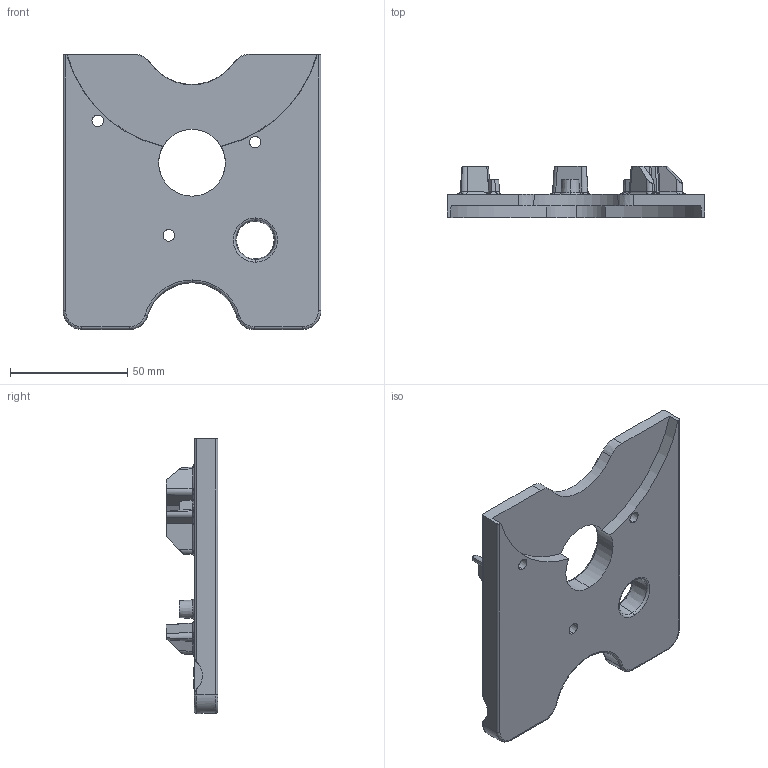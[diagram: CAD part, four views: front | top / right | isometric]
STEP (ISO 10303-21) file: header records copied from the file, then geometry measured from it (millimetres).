
FILE_DESCRIPTION (( 'STEP AP214' ), '1' );
FILE_NAME ('10034V000_Motorflansch_Index_2.STEP', '2014-04-25T08:47:45', ( 'Admin' ), ( '' ), 'SwSTEP 2.0', 'SolidWorks 2013', '' );
FILE_SCHEMA (( 'AUTOMOTIVE_DESIGN' ));
Length unit declared in the file: millimetre
Products named in the file (1): 10034V000_Motorflansch_Index_2
Bounding box: 110 x 22 x 117.5 mm (x, y, z)
Volume: 99343.4 mm3; surface area: 30286.3 mm2
Topology: 1 solids, 1 shells, 299 faces, 767 edges, 457 vertices
Faces by surface type: cylinder 104, bspline 85, plane 74, torus 16, cone 15, sphere 5
Entity records: 13142 total; most frequent: CARTESIAN_POINT 6871, ORIENTED_EDGE 1480, DIRECTION 1054, EDGE_CURVE 740, VERTEX_POINT 457, AXIS2_PLACEMENT_3D 370, EDGE_LOOP 323, VECTOR 314
